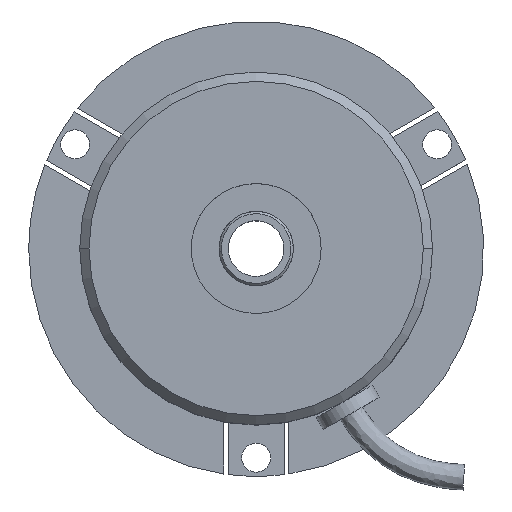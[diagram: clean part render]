
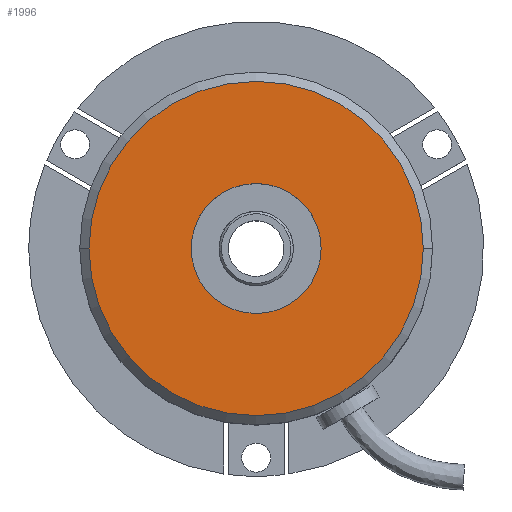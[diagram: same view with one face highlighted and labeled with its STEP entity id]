
A CAD part, top view. The second image highlights one B-rep face of the part: STEP entity #1996.
In plain terms, the highlighted planar face has unit normal (0, 0, 1).
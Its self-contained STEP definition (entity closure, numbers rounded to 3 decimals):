
#27 = AXIS2_PLACEMENT_3D ( 'NONE', #3489, #1451, #3083 ) ;
#64 = EDGE_CURVE ( 'NONE', #3376, #1936, #1747, .T. ) ;
#190 = DIRECTION ( 'NONE',  ( 0., 0., 1. ) ) ;
#326 = DIRECTION ( 'NONE',  ( 0., 0., 1. ) ) ;
#383 = VERTEX_POINT ( 'NONE', #1669 ) ;
#418 = EDGE_LOOP ( 'NONE', ( #1578, #4223 ) ) ;
#437 = ORIENTED_EDGE ( 'NONE', *, *, #1409, .T. ) ;
#612 = CIRCLE ( 'NONE', #1758, 36. ) ;
#680 = DIRECTION ( 'NONE',  ( 1., 0., 0. ) ) ;
#800 = ORIENTED_EDGE ( 'NONE', *, *, #2371, .T. ) ;
#822 = CIRCLE ( 'NONE', #27, 14. ) ;
#904 = CARTESIAN_POINT ( 'NONE',  ( 0., 0., 30. ) ) ;
#1009 = EDGE_CURVE ( 'NONE', #1936, #3376, #822, .T. ) ;
#1092 = CIRCLE ( 'NONE', #2831, 36. ) ;
#1389 = DIRECTION ( 'NONE',  ( 1., 0., 0. ) ) ;
#1409 = EDGE_CURVE ( 'NONE', #383, #1421, #1092, .T. ) ;
#1421 = VERTEX_POINT ( 'NONE', #3408 ) ;
#1451 = DIRECTION ( 'NONE',  ( 0., 0., 1. ) ) ;
#1568 = DIRECTION ( 'NONE',  ( 1., 0., 0. ) ) ;
#1576 = CARTESIAN_POINT ( 'NONE',  ( 0., 0., 30. ) ) ;
#1578 = ORIENTED_EDGE ( 'NONE', *, *, #64, .F. ) ;
#1669 = CARTESIAN_POINT ( 'NONE',  ( -36., 0., 30. ) ) ;
#1747 = CIRCLE ( 'NONE', #3334, 14. ) ;
#1758 = AXIS2_PLACEMENT_3D ( 'NONE', #1576, #326, #3439 ) ;
#1776 = FACE_BOUND ( 'NONE', #418, .T. ) ;
#1838 = EDGE_LOOP ( 'NONE', ( #437, #800 ) ) ;
#1936 = VERTEX_POINT ( 'NONE', #2366 ) ;
#1978 = AXIS2_PLACEMENT_3D ( 'NONE', #3128, #3172, #1389 ) ;
#1985 = PLANE ( 'NONE',  #1978 ) ;
#1996 = ADVANCED_FACE ( 'NONE', ( #3151, #1776 ), #1985, .T. ) ;
#2033 = CARTESIAN_POINT ( 'NONE',  ( 0., 0., 30. ) ) ;
#2366 = CARTESIAN_POINT ( 'NONE',  ( -14., 0., 30. ) ) ;
#2371 = EDGE_CURVE ( 'NONE', #1421, #383, #612, .T. ) ;
#2831 = AXIS2_PLACEMENT_3D ( 'NONE', #2033, #4354, #680 ) ;
#3083 = DIRECTION ( 'NONE',  ( 1., 0., 0. ) ) ;
#3128 = CARTESIAN_POINT ( 'NONE',  ( 0., 0., 30. ) ) ;
#3151 = FACE_OUTER_BOUND ( 'NONE', #1838, .T. ) ;
#3172 = DIRECTION ( 'NONE',  ( 0., 0., 1. ) ) ;
#3334 = AXIS2_PLACEMENT_3D ( 'NONE', #904, #190, #1568 ) ;
#3376 = VERTEX_POINT ( 'NONE', #3716 ) ;
#3408 = CARTESIAN_POINT ( 'NONE',  ( 36., 0., 30. ) ) ;
#3439 = DIRECTION ( 'NONE',  ( 1., 0., 0. ) ) ;
#3489 = CARTESIAN_POINT ( 'NONE',  ( 0., 0., 30. ) ) ;
#3716 = CARTESIAN_POINT ( 'NONE',  ( 14., 0., 30. ) ) ;
#4223 = ORIENTED_EDGE ( 'NONE', *, *, #1009, .F. ) ;
#4354 = DIRECTION ( 'NONE',  ( 0., 0., 1. ) ) ;
